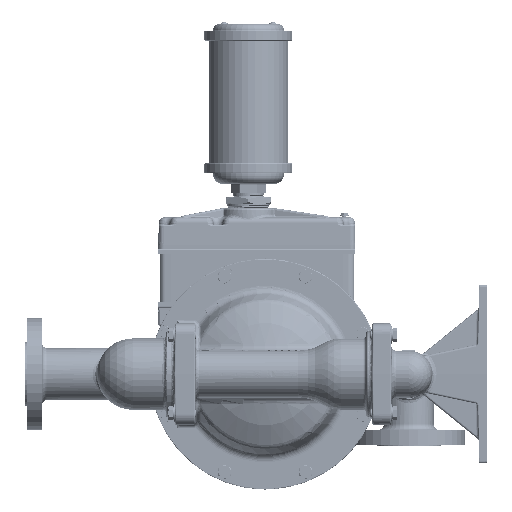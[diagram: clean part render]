
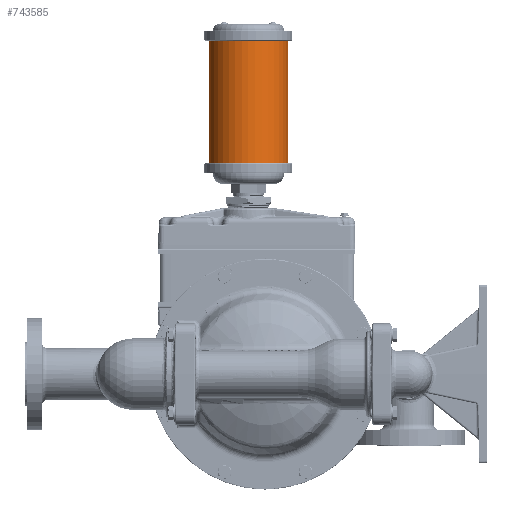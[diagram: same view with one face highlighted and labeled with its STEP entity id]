
A CAD part, left-side view. The second image highlights one B-rep face of the part: STEP entity #743585.
In plain terms, the highlighted cylindrical face has radius 45.339 mm (diameter 90.678 mm), a partial arc.
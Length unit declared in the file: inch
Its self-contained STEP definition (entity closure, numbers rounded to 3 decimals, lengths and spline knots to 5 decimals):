
#145432=DIRECTION('',(0.,0.,1.));
#145433=VECTOR('',#145432,5.5);
#145434=CARTESIAN_POINT('',(0.,2.535,9.47));
#145435=LINE('',#145434,#145433);
#145436=DIRECTION('',(0.,0.,1.));
#145437=VECTOR('',#145436,5.5);
#145438=CARTESIAN_POINT('',(0.,-1.035,9.47));
#145439=LINE('',#145438,#145437);
#145440=CARTESIAN_POINT('',(0.,0.75,9.47));
#145441=DIRECTION('',(0.,0.,1.));
#145442=DIRECTION('',(0.,1.,0.));
#145443=AXIS2_PLACEMENT_3D('',#145440,#145441,#145442);
#145465=CARTESIAN_POINT('',(0.,0.75,14.97));
#145466=DIRECTION('',(0.,0.,1.));
#145467=DIRECTION('',(0.,1.,0.));
#145468=AXIS2_PLACEMENT_3D('',#145465,#145466,#145467);
#615225=CARTESIAN_POINT('',(0.,2.535,9.47));
#615226=CARTESIAN_POINT('',(0.,2.535,14.97));
#615227=VERTEX_POINT('',#615225);
#615228=VERTEX_POINT('',#615226);
#615229=CARTESIAN_POINT('',(0.,-1.035,9.47));
#615230=CARTESIAN_POINT('',(0.,-1.035,14.97));
#615231=VERTEX_POINT('',#615229);
#615232=VERTEX_POINT('',#615230);
#743571=CARTESIAN_POINT('',(0.,0.75,16.079));
#743572=DIRECTION('',(0.,0.,-1.));
#743573=DIRECTION('',(0.,-1.,0.));
#743574=AXIS2_PLACEMENT_3D('',#743571,#743572,#743573);
#743575=CYLINDRICAL_SURFACE('',#743574,1.785);
#743577=ORIENTED_EDGE('',*,*,#743576,.T.);
#743579=ORIENTED_EDGE('',*,*,#743578,.T.);
#743581=ORIENTED_EDGE('',*,*,#743580,.F.);
#743582=ORIENTED_EDGE('',*,*,#743552,.F.);
#743583=EDGE_LOOP('',(#743577,#743579,#743581,#743582));
#743584=FACE_OUTER_BOUND('',#743583,.F.);
#743585=ADVANCED_FACE('',(#743584),#743575,.T.);
#145444=CIRCLE('',#145443,1.785);
#145469=CIRCLE('',#145468,1.785);
#743552=EDGE_CURVE('',#615227,#615231,#145444,.T.);
#743576=EDGE_CURVE('',#615227,#615228,#145435,.T.);
#743578=EDGE_CURVE('',#615228,#615232,#145469,.T.);
#743580=EDGE_CURVE('',#615231,#615232,#145439,.T.);
